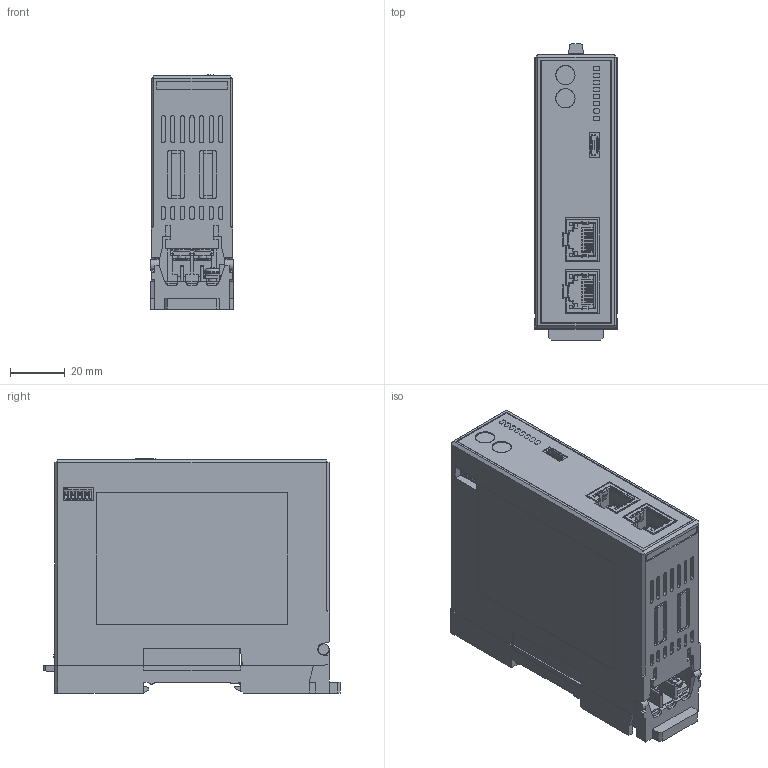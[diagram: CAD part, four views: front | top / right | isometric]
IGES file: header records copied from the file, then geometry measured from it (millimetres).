
Start section: SolidWorks IGES file using analytic representation for surfaces
Global section: file name: D:\KK\CAD_DATA\Q\Q僔儕乕僘\QMC2-M4\D25-026\HP_3D\QMC2-M4_IGES\QMC2-M4.IGS; native system: SolidWorks 2025; preprocessor: SolidWorks 2025; author: kawahara; date: 260722.085341; units: millimetre
Bounding box: 30 x 108 x 85.45 mm (x, y, z)
Surface area: 40322.3 mm2 (no closed solid volume)
Topology: 0 solids, 0 shells, 2191 faces, 15448 edges, 15328 vertices
Faces by surface type: bspline 1629, revolution 562
